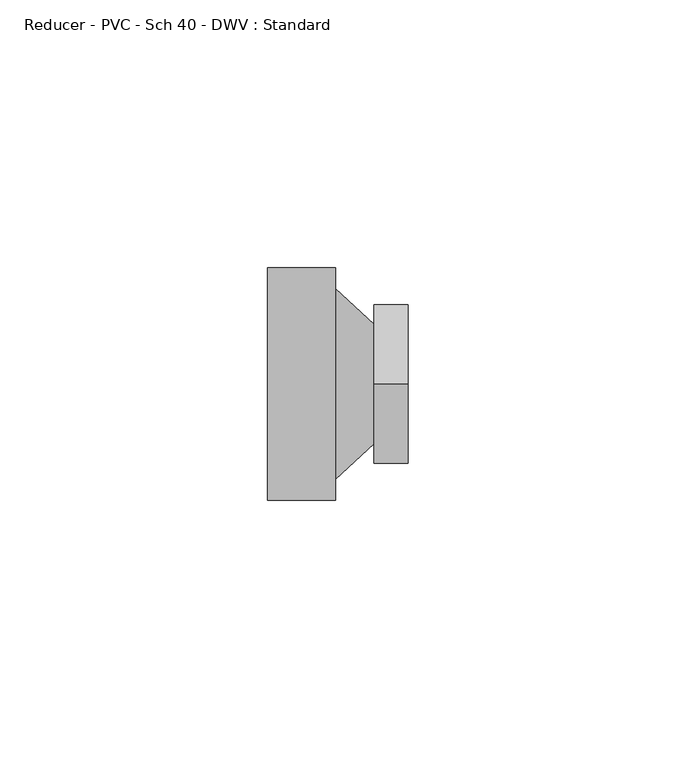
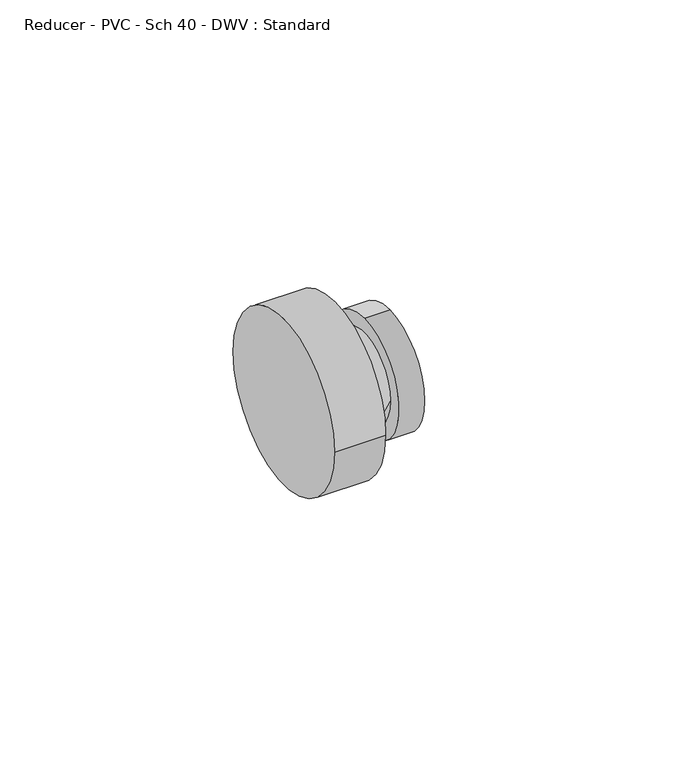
"""IFC4 building model written with IfcOpenShell, lengths in millimetres: pipe fitting geometry, Reducer - PVC - Sch 40 - DWV : Standard."""

from ifc_helpers import new_model, si_unit, frame, origin, place, context, project, spatial, polyline, circle_curve, source, transform, mapped, element, save
from ifc_brep_helpers import plane_surface, cylinder_surface, revolved_surface, advanced_brep


def reducer_pvc_sch_40_dwv_standard_36281592(model_context):
    return source(origin(), model_context, "Body", "AdvancedBrep", [
        advanced_brep(
        [(0.0, -21.7031094, 0.0), (0.0, 21.7031094, 0.0), (12.7, -21.7031094, 0.0), (12.7, 21.7031094, 0.0), (12.7, 17.7720625, 0.0), (12.7, -17.7720625, 0.0), (19.9270938, 11.1680625, 0.0), (19.9270937, -11.1680625, 0.0), (19.9270938, 0.0, 14.8451094), (19.9270938, 0.0, -14.8451094), (26.2770938, 0.0, 14.8451094), (26.2770938, 0.0, -14.8451094)],
        [
            (0, 1, circle_curve(frame((0.0, 0.0, 0.0), z_axis=(-1.0, 0.0, 0.0), x_axis=(0.0, 1.0, 0.0)), 21.7031094)),
            (1, 0, circle_curve(frame((0.0, 0.0, 0.0), z_axis=(-1.0, 0.0, 0.0), x_axis=(0.0, 1.0, 0.0)), 21.7031094)),
            (2, 3, circle_curve(frame((12.7, 0.0, 0.0), z_axis=(1.0, 0.0, 0.0), x_axis=(0.0, 1.0, 0.0)), 21.7031094)),
            (3, 2, circle_curve(frame((12.7, 0.0, 0.0), z_axis=(1.0, 0.0, 0.0), x_axis=(0.0, 1.0, 0.0)), 21.7031094)),
            (4, 5, circle_curve(frame((12.7, 0.0, 0.0), z_axis=(-1.0, 0.0, 0.0), x_axis=(0.0, -1.0, 0.0)), 17.7720625)),
            (5, 4, circle_curve(frame((12.7, 0.0, 0.0), z_axis=(-1.0, 0.0, 0.0), x_axis=(0.0, 1.0, 0.0)), 17.7720625)),
            (0, 2),
            (3, 1),
            (4, 6),
            (6, 7, circle_curve(frame((19.9270938, 0.0, 0.0), z_axis=(-1.0, 0.0, 0.0), x_axis=(0.0, -1.0, 0.0)), 11.1680625)),
            (7, 5),
            (7, 6, circle_curve(frame((19.9270938, 0.0, 0.0), z_axis=(-1.0, 0.0, 0.0), x_axis=(0.0, 1.0, 0.0)), 11.1680625)),
            (8, 9, circle_curve(frame((19.9270938, 0.0, 0.0), z_axis=(-1.0, 0.0, 0.0), x_axis=(0.0, 0.0, -1.0)), 14.8451094)),
            (9, 8, circle_curve(frame((19.9270938, 0.0, 0.0), z_axis=(-1.0, 0.0, 0.0), x_axis=(0.0, 0.0, -1.0)), 14.8451094)),
            (10, 11, circle_curve(frame((26.2770938, 0.0, 0.0), z_axis=(1.0, 0.0, 0.0), x_axis=(0.0, 0.0, -1.0)), 14.8451094)),
            (11, 10, circle_curve(frame((26.2770938, 0.0, 0.0), z_axis=(1.0, 0.0, 0.0), x_axis=(0.0, 0.0, -1.0)), 14.8451094)),
            (8, 10),
            (11, 9),
        ],
        [
            plane_surface(frame((0.0, 0.0, 0.0), z_axis=(-1.0, 0.0, 0.0), x_axis=(0.0, 0.0, 1.0))),
            plane_surface(frame((12.7, 0.0, 0.0), z_axis=(1.0, 0.0, 0.0), x_axis=(0.0, 0.0, 1.0))),
            cylinder_surface(frame((0.0, 0.0, 0.0), z_axis=(-1.0, 0.0, 0.0), x_axis=(0.0, 1.0, 0.0)), 21.7031094),
            revolved_surface(polyline([(19.9270938, 11.16806245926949, 0.0), (12.7, 17.7720625, 0.0)]), (32.1488737, 0.0, 0.0), (-1.0, 0.0, 0.0)),
            plane_surface(frame((19.9270938, 0.0, 0.0), z_axis=(-1.0, 0.0, 0.0), x_axis=(0.0, 1.0, 0.0))),
            plane_surface(frame((26.2770938, 0.0, 0.0), z_axis=(1.0, 0.0, 0.0), x_axis=(0.0, 1.0, 0.0))),
            cylinder_surface(frame((19.9270938, 0.0, 0.0), z_axis=(-1.0, 0.0, 0.0), x_axis=(0.0, 0.0, -1.0)), 14.8451094),
        ],
        [
            (0, [[1, 2]]),
            (1, [[3, 4], [5, 6]]),
            (2, [[-1, 7, -4, 8]]),
            (2, [[-2, -8, -3, -7]]),
            (3, [[9, 10, 11, -5]]),
            (3, [[-9, -6, -11, 12]]),
            (4, [[13, 14], [-10, -12]]),
            (5, [[15, 16]]),
            (6, [[-13, 17, -16, 18]]),
            (6, [[-14, -18, -15, -17]]),
        ],
    ),
    ])


if __name__ == "__main__":
    model = new_model("IFC4")
    model_context = context("Model", 3, world=origin())
    ifc_project = project(units=[si_unit("LENGTHUNIT", "METRE", prefix="MILLI")], contexts=[model_context])
    site = spatial("IfcSite", under=ifc_project)
    building = spatial("IfcBuilding", under=site)
    placement = place(None, origin())
    reducer_pvc_sch_40_dwv_standard_shape = reducer_pvc_sch_40_dwv_standard_36281592(model_context)
    element("IfcPipeFitting", 1, ObjectType="Reducer - PVC - Sch 40 - DWV : Standard", at=placement, inside=building, context=model_context, shape_type="MappedRepresentation", body=[
        mapped(reducer_pvc_sch_40_dwv_standard_shape, transform((0.0, 0.0, 0.0), x_axis=(1.0, 0.0, 0.0), y_axis=(0.0, 1.0, 0.0), z_axis=(0.0, 0.0, 1.0))),
    ])
    save(model, "model.ifc")
